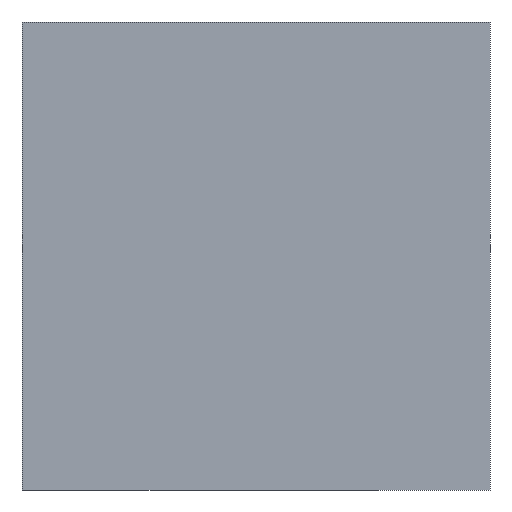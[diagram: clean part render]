
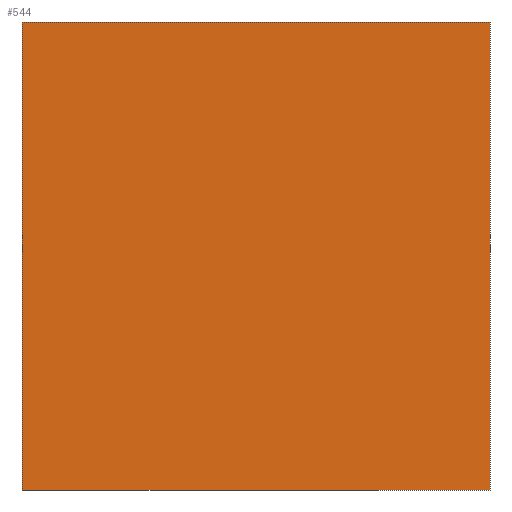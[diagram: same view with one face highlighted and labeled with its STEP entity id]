
A CAD part, left-side view. The second image highlights one B-rep face of the part: STEP entity #544.
In plain terms, the highlighted planar face has unit normal (-1, 0, 0).
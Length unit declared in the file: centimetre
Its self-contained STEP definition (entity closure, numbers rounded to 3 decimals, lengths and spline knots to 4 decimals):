
#3 = DIRECTION ( 'NONE',  ( 0., -1., 0. ) ) ;
#10 = DIRECTION ( 'NONE',  ( 0., -1., 0. ) ) ;
#12 = VERTEX_POINT ( 'NONE', #91 ) ;
#56 = PLANE ( 'NONE',  #112 ) ;
#76 = EDGE_CURVE ( 'NONE', #256, #259, #575, .T. ) ;
#91 = CARTESIAN_POINT ( 'NONE',  ( 0., 0., 0. ) ) ;
#95 = EDGE_CURVE ( 'NONE', #256, #317, #493, .T. ) ;
#112 = AXIS2_PLACEMENT_3D ( 'NONE', #390, #453, #343 ) ;
#134 = ORIENTED_EDGE ( 'NONE', *, *, #76, .F. ) ;
#144 = DIRECTION ( 'NONE',  ( 0., 0., -1. ) ) ;
#150 = FACE_OUTER_BOUND ( 'NONE', #374, .T. ) ;
#156 = CARTESIAN_POINT ( 'NONE',  ( 0., 0., 1000. ) ) ;
#186 = EDGE_CURVE ( 'NONE', #317, #12, #507, .T. ) ;
#230 = VECTOR ( 'NONE', #10, 100. ) ;
#246 = DIRECTION ( 'NONE',  ( 0., 0., -1. ) ) ;
#253 = VECTOR ( 'NONE', #246, 100. ) ;
#256 = VERTEX_POINT ( 'NONE', #444 ) ;
#259 = VERTEX_POINT ( 'NONE', #459 ) ;
#263 = ORIENTED_EDGE ( 'NONE', *, *, #95, .T. ) ;
#273 = ORIENTED_EDGE ( 'NONE', *, *, #186, .T. ) ;
#300 = LINE ( 'NONE', #156, #505 ) ;
#317 = VERTEX_POINT ( 'NONE', #408 ) ;
#343 = DIRECTION ( 'NONE',  ( 0., 0., -1. ) ) ;
#374 = EDGE_LOOP ( 'NONE', ( #273, #457, #134, #263 ) ) ;
#390 = CARTESIAN_POINT ( 'NONE',  ( 0., 1000., 1000. ) ) ;
#408 = CARTESIAN_POINT ( 'NONE',  ( 0., 1000., 0. ) ) ;
#430 = CARTESIAN_POINT ( 'NONE',  ( 0., 1000., 1000. ) ) ;
#444 = CARTESIAN_POINT ( 'NONE',  ( 0., 1000., 1000. ) ) ;
#453 = DIRECTION ( 'NONE',  ( 1., 0., 0. ) ) ;
#456 = CARTESIAN_POINT ( 'NONE',  ( 0., 1000., 0. ) ) ;
#457 = ORIENTED_EDGE ( 'NONE', *, *, #549, .F. ) ;
#459 = CARTESIAN_POINT ( 'NONE',  ( 0., 0., 1000. ) ) ;
#493 = LINE ( 'NONE', #430, #253 ) ;
#505 = VECTOR ( 'NONE', #144, 100. ) ;
#507 = LINE ( 'NONE', #456, #230 ) ;
#544 = ADVANCED_FACE ( 'NONE', ( #150 ), #56, .F. ) ;
#549 = EDGE_CURVE ( 'NONE', #259, #12, #300, .T. ) ;
#571 = VECTOR ( 'NONE', #3, 100. ) ;
#575 = LINE ( 'NONE', #578, #571 ) ;
#578 = CARTESIAN_POINT ( 'NONE',  ( 0., 1000., 1000. ) ) ;
